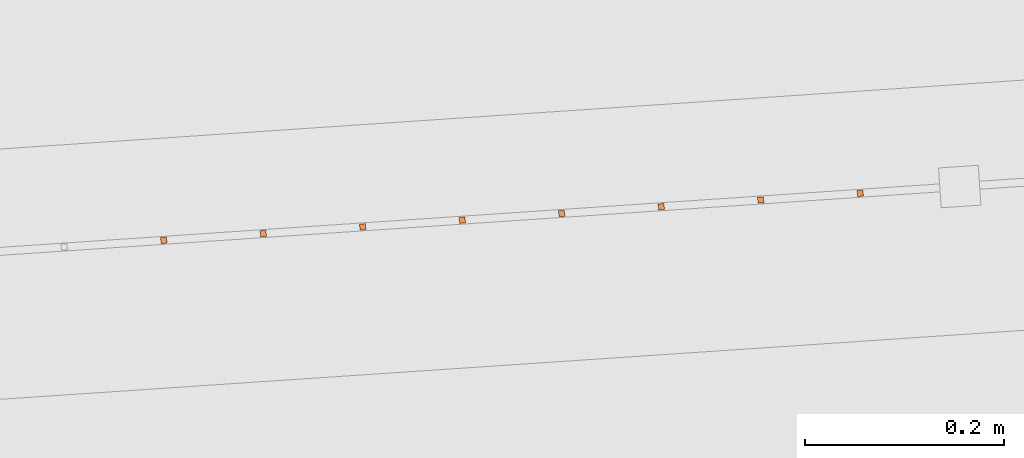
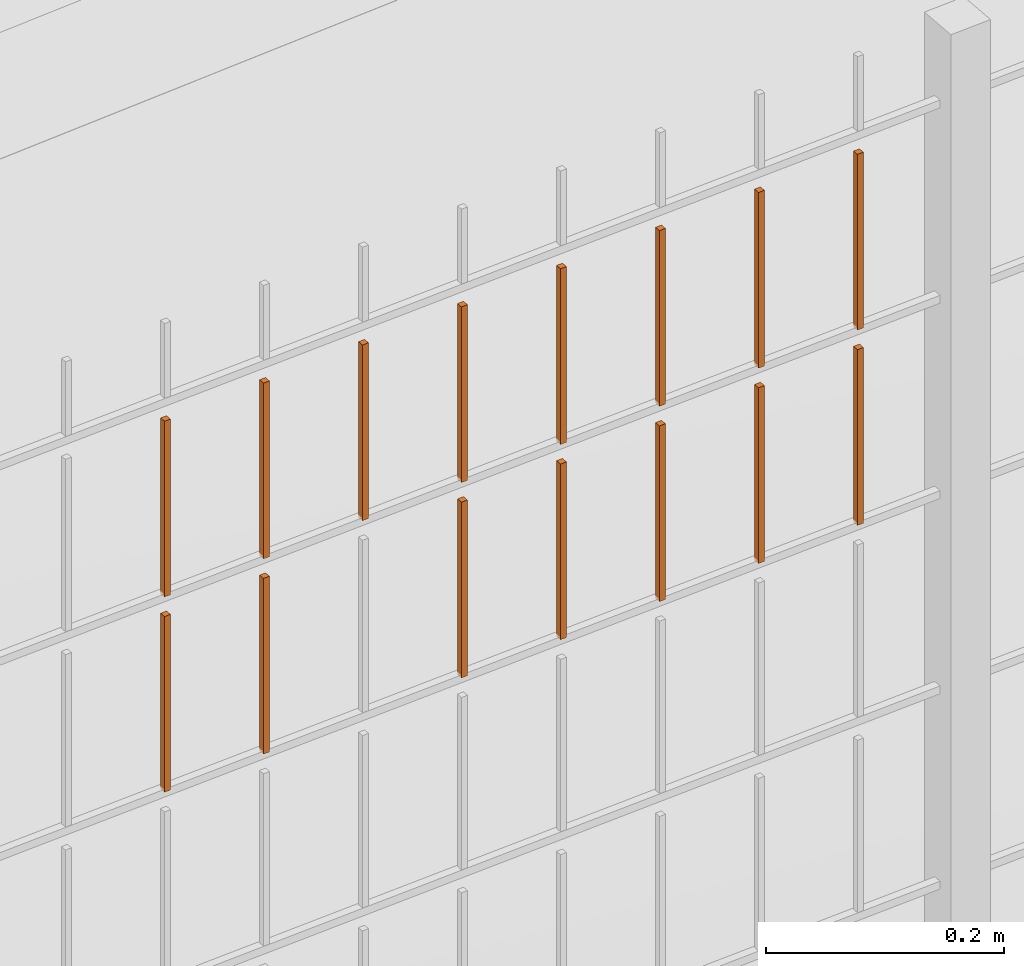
# One storey, part 394 of 1809: 15 proxies, 1 element without a shape of its own.
"""IFC2X3 building model written with IfcOpenShell, lengths in millimetres."""

from ifc_helpers import new_model, entity, si_unit, converted_unit, derived_unit, money_unit, direction, frame, origin_with_axes, place, context, subcontext, project, spatial, faceted_brep, source, transform, mapped, material, type_object, element, aggregate, save


model = new_model("IFC2X3")

# Units and contexts
model_context = context("Model", 3, precision=0.01, world=origin_with_axes(), true_north=direction((0.0, 1.0)))
body_context = subcontext(model_context, "Body", "Model", "MODEL_VIEW")
ifc_project = project(units=[si_unit("LENGTHUNIT", "METRE", prefix="MILLI"), si_unit("AREAUNIT", "SQUARE_METRE"), si_unit("VOLUMEUNIT", "CUBIC_METRE"), converted_unit("PLANEANGLEUNIT", "DEGREE", entity("IfcPlaneAngleMeasure", 0.0174532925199), si_unit("PLANEANGLEUNIT", "RADIAN"), dimensions=[0, 0, 0, 0, 0, 0, 0]), si_unit("SOLIDANGLEUNIT", "STERADIAN"), money_unit("EUR"), converted_unit("TIMEUNIT", "Year", entity("IfcTimeMeasure", 31556926.0), si_unit("TIMEUNIT", "SECOND"), dimensions=[0, 0, 1, 0, 0, 0, 0]), si_unit("MASSUNIT", "GRAM", prefix="KILO"), si_unit("THERMODYNAMICTEMPERATUREUNIT", "DEGREE_CELSIUS"), si_unit("LUMINOUSINTENSITYUNIT", "LUMEN"), si_unit("ENERGYUNIT", "JOULE", prefix="MEGA"), derived_unit("THERMALCONDUCTANCEUNIT", [(si_unit("POWERUNIT", "WATT"), 1), (si_unit("LENGTHUNIT", "METRE"), -1), (si_unit("THERMODYNAMICTEMPERATUREUNIT", "KELVIN"), -1)]), derived_unit("SPECIFICHEATCAPACITYUNIT", [(si_unit("ENERGYUNIT", "JOULE"), 1), (si_unit("MASSUNIT", "GRAM", prefix="KILO"), -1), (si_unit("THERMODYNAMICTEMPERATUREUNIT", "KELVIN"), -1)]), derived_unit("MASSDENSITYUNIT", [(si_unit("MASSUNIT", "GRAM", prefix="KILO"), 1), (si_unit("VOLUMEUNIT", "CUBIC_METRE"), -1)])], contexts=[model_context])

# Site, building, storey
site_placement = place(None, origin_with_axes())
site = spatial("IfcSite", under=ifc_project, at=site_placement, Name="Politse- ja Piirivalveameti ning Päästeameti ühishoone", CompositionType="ELEMENT")
building_placement = place(site_placement, origin_with_axes())
building = spatial("IfcBuilding", under=site, at=building_placement, Name="Politse- ja Piirivalveameti ning Päästeameti ühishoone", CompositionType="ELEMENT")
storey_placement = place(building_placement, origin_with_axes())
storey = spatial("IfcBuildingStorey", under=building, at=storey_placement, Name="Esimene korrus", CompositionType="ELEMENT", Elevation=0.0)

# Proxies
building_element_proxy_type_1 = type_object("IfcBuildingElementProxyType", Name="Railing Type", PredefinedType="NOTDEFINED")
proxy_1_placement = place(storey_placement, frame((89252.001212, -29183.4766571, 203.661247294), z_axis=(0.0, 0.0, 1.0), x_axis=(1.0, 0.0, 0.0)))
proxy_1 = element("IfcBuildingElementProxy", 1, at=proxy_1_placement, inside=storey, type_object=building_element_proxy_type_1, Name="PIIRDEAED")
ifc_material = material(Name="ET-03_Raud")
building_element_proxy_type_2 = type_object("IfcBuildingElementProxyType", Name="IfcBuildingElementProxy", PredefinedType="NOTDEFINED")
shared_shape_1 = source(origin_with_axes(), body_context, "Body", "Brep", [
    faceted_brep([(3.0, 3.0, -0.000752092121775), (-3.0, 3.0, -0.000752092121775), (-3.0, 3.0, 179.99926046), (3.0, 3.0, 179.99926046), (3.0, -3.0, 0.000752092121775), (-3.0, -3.0, 0.000752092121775), (-3.0, -3.0, 180.000764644), (3.0, -3.0, 180.000764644)], [[[0, 1, 2, 3]], [[0, 4, 5, 1]], [[1, 5, 6, 2]], [[3, 2, 6, 7]], [[4, 0, 3, 7]], [[5, 4, 7, 6]]]),
])
proxy_2_placement = place(proxy_1_placement, frame((-12597.9815761, -18148.720874, 1824.068908), z_axis=(0.0, 0.0, 1.0), x_axis=(1.0, 0.0, 0.0)))
proxy_2 = element("IfcBuildingElementProxy", 2, at=proxy_2_placement, type_object=building_element_proxy_type_2, material=ifc_material, Name="BALUSTER - 001", context=body_context, shape_type="MappedRepresentation", body=[
    mapped(shared_shape_1, transform((0.0, 0.0, 0.0), x_axis=(-0.0673926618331, 0.997726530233, 0.0), y_axis=(-0.997726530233, -0.0673926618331, 0.0), z_axis=(0.0, 0.0, 1.0))),
])
shared_shape_2 = source(origin_with_axes(), body_context, "Body", "Brep", [
    faceted_brep([(3.0, 3.0, -0.000752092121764), (-3.0, 3.0, -0.000752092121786), (-3.0, 3.0, 179.99926046), (3.0, 3.0, 179.99926046), (3.0, -3.0, 0.000752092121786), (-3.0, -3.0, 0.000752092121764), (-3.0, -3.0, 180.000764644), (3.0, -3.0, 180.000764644)], [[[0, 1, 2, 3]], [[0, 4, 5, 1]], [[1, 5, 6, 2]], [[3, 2, 6, 7]], [[4, 0, 3, 7]], [[5, 4, 7, 6]]]),
])
proxy_3_placement = place(proxy_1_placement, frame((-12498.2089231, -18141.9816078, 1624.09397773), z_axis=(0.0, 0.0, 1.0), x_axis=(1.0, 0.0, 0.0)))
proxy_3 = element("IfcBuildingElementProxy", 3, at=proxy_3_placement, type_object=building_element_proxy_type_2, material=ifc_material, Name="BALUSTER - 001", context=body_context, shape_type="MappedRepresentation", body=[
    mapped(shared_shape_2, transform((0.0, 0.0, 0.0), x_axis=(-0.0673926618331, 0.997726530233, 0.0), y_axis=(-0.997726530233, -0.0673926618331, 0.0), z_axis=(0.0, 0.0, 1.0))),
])
shared_shape_3 = source(origin_with_axes(), body_context, "Body", "Brep", [
    faceted_brep([(3.0, 3.0, -0.000752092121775), (-3.0, 3.0, -0.000752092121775), (-3.0, 3.0, 179.99926046), (3.0, 3.0, 179.99926046), (3.0, -3.0, 0.000752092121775), (-3.0, -3.0, 0.000752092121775), (-3.0, -3.0, 180.000764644), (3.0, -3.0, 180.000764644)], [[[0, 1, 2, 3]], [[0, 4, 5, 1]], [[1, 5, 6, 2]], [[3, 2, 6, 7]], [[4, 0, 3, 7]], [[5, 4, 7, 6]]]),
])
proxy_4_placement = place(proxy_1_placement, frame((-12997.0721882, -18175.6779387, 1823.96862905), z_axis=(0.0, 0.0, 1.0), x_axis=(1.0, 0.0, 0.0)))
proxy_4 = element("IfcBuildingElementProxy", 4, at=proxy_4_placement, type_object=building_element_proxy_type_2, material=ifc_material, Name="BALUSTER - 001", context=body_context, shape_type="MappedRepresentation", body=[
    mapped(shared_shape_3, transform((0.0, 0.0, 0.0), x_axis=(-0.0673926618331, 0.997726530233, 0.0), y_axis=(-0.997726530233, -0.0673926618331, 0.0), z_axis=(0.0, 0.0, 1.0))),
])
shared_shape_4 = source(origin_with_axes(), body_context, "Body", "Brep", [
    faceted_brep([(3.0, 3.0, -0.000752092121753), (-3.0, 3.0, -0.000752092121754), (-3.0, 3.0, 179.99926046), (3.0, 3.0, 179.99926046), (3.0, -3.0, 0.000752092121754), (-3.0, -3.0, 0.000752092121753), (-3.0, -3.0, 180.000764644), (3.0, -3.0, 180.000764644)], [[[0, 1, 2, 3]], [[0, 4, 5, 1]], [[1, 5, 6, 2]], [[3, 2, 6, 7]], [[4, 0, 3, 7]], [[5, 4, 7, 6]]]),
])
proxy_5_placement = place(proxy_1_placement, frame((-13096.8448412, -18182.4172049, 1823.94355931), z_axis=(0.0, 0.0, 1.0), x_axis=(1.0, 0.0, 0.0)))
proxy_5 = element("IfcBuildingElementProxy", 5, at=proxy_5_placement, type_object=building_element_proxy_type_2, material=ifc_material, Name="BALUSTER - 001", context=body_context, shape_type="MappedRepresentation", body=[
    mapped(shared_shape_4, transform((0.0, 0.0, 0.0), x_axis=(-0.0673926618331, 0.997726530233, 0.0), y_axis=(-0.997726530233, -0.0673926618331, 0.0), z_axis=(0.0, 0.0, 1.0))),
])
shared_shape_5 = source(origin_with_axes(), body_context, "Body", "Brep", [
    faceted_brep([(3.0, 3.0, -0.000752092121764), (-3.0, 3.0, -0.000752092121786), (-3.0, 3.0, 179.99926046), (3.0, 3.0, 179.99926046), (3.0, -3.0, 0.000752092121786), (-3.0, -3.0, 0.000752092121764), (-3.0, -3.0, 180.000764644), (3.0, -3.0, 180.000764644)], [[[0, 1, 2, 3]], [[0, 4, 5, 1]], [[1, 5, 6, 2]], [[3, 2, 6, 7]], [[4, 0, 3, 7]], [[5, 4, 7, 6]]]),
])
proxy_6_placement = place(proxy_1_placement, frame((-12697.7542291, -18155.4601402, 1824.04383826), z_axis=(0.0, 0.0, 1.0), x_axis=(1.0, 0.0, 0.0)))
proxy_6 = element("IfcBuildingElementProxy", 6, at=proxy_6_placement, type_object=building_element_proxy_type_2, material=ifc_material, Name="BALUSTER - 001", context=body_context, shape_type="MappedRepresentation", body=[
    mapped(shared_shape_5, transform((0.0, 0.0, 0.0), x_axis=(-0.0673926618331, 0.997726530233, 0.0), y_axis=(-0.997726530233, -0.0673926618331, 0.0), z_axis=(0.0, 0.0, 1.0))),
])
shared_shape_6 = source(origin_with_axes(), body_context, "Body", "Brep", [
    faceted_brep([(3.0, 3.0, -0.000752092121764), (-3.0, 3.0, -0.000752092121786), (-3.0, 3.0, 179.99926046), (3.0, 3.0, 179.99926046), (3.0, -3.0, 0.000752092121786), (-3.0, -3.0, 0.000752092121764), (-3.0, -3.0, 180.000764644), (3.0, -3.0, 180.000764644)], [[[0, 1, 2, 3]], [[0, 4, 5, 1]], [[1, 5, 6, 2]], [[3, 2, 6, 7]], [[4, 0, 3, 7]], [[5, 4, 7, 6]]]),
])
proxy_7_placement = place(proxy_1_placement, frame((-12797.5268822, -18162.1994064, 1624.01876852), z_axis=(0.0, 0.0, 1.0), x_axis=(1.0, 0.0, 0.0)))
proxy_7 = element("IfcBuildingElementProxy", 7, at=proxy_7_placement, type_object=building_element_proxy_type_2, material=ifc_material, Name="BALUSTER - 001", context=body_context, shape_type="MappedRepresentation", body=[
    mapped(shared_shape_6, transform((0.0, 0.0, 0.0), x_axis=(-0.0673926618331, 0.997726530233, 0.0), y_axis=(-0.997726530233, -0.0673926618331, 0.0), z_axis=(0.0, 0.0, 1.0))),
])
shared_shape_7 = source(origin_with_axes(), body_context, "Body", "Brep", [
    faceted_brep([(3.0, 3.0, -0.000752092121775), (-3.0, 3.0, -0.000752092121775), (-3.0, 3.0, 179.99926046), (3.0, 3.0, 179.99926046), (3.0, -3.0, 0.000752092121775), (-3.0, -3.0, 0.000752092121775), (-3.0, -3.0, 180.000764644), (3.0, -3.0, 180.000764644)], [[[0, 1, 2, 3]], [[0, 4, 5, 1]], [[1, 5, 6, 2]], [[3, 2, 6, 7]], [[4, 0, 3, 7]], [[5, 4, 7, 6]]]),
])
proxy_8_placement = place(proxy_1_placement, frame((-12398.4362701, -18135.2423416, 1824.11904747), z_axis=(0.0, 0.0, 1.0), x_axis=(1.0, 0.0, 0.0)))
proxy_8 = element("IfcBuildingElementProxy", 8, at=proxy_8_placement, type_object=building_element_proxy_type_2, material=ifc_material, Name="BALUSTER - 001", context=body_context, shape_type="MappedRepresentation", body=[
    mapped(shared_shape_7, transform((0.0, 0.0, 0.0), x_axis=(-0.0673926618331, 0.997726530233, 0.0), y_axis=(-0.997726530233, -0.0673926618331, 0.0), z_axis=(0.0, 0.0, 1.0))),
])
shared_shape_8 = source(origin_with_axes(), body_context, "Body", "Brep", [
    faceted_brep([(3.0, 3.0, -0.000752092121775), (-3.0, 3.0, -0.000752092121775), (-3.0, 3.0, 179.99926046), (3.0, 3.0, 179.99926046), (3.0, -3.0, 0.000752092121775), (-3.0, -3.0, 0.000752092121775), (-3.0, -3.0, 180.000764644), (3.0, -3.0, 180.000764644)], [[[0, 1, 2, 3]], [[0, 4, 5, 1]], [[1, 5, 6, 2]], [[3, 2, 6, 7]], [[4, 0, 3, 7]], [[5, 4, 7, 6]]]),
])
proxy_9_placement = place(proxy_1_placement, frame((-12997.0721882, -18175.6779387, 1623.96862905), z_axis=(0.0, 0.0, 1.0), x_axis=(1.0, 0.0, 0.0)))
proxy_9 = element("IfcBuildingElementProxy", 9, at=proxy_9_placement, type_object=building_element_proxy_type_2, material=ifc_material, Name="BALUSTER - 001", context=body_context, shape_type="MappedRepresentation", body=[
    mapped(shared_shape_8, transform((0.0, 0.0, 0.0), x_axis=(-0.0673926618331, 0.997726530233, 0.0), y_axis=(-0.997726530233, -0.0673926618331, 0.0), z_axis=(0.0, 0.0, 1.0))),
])
shared_shape_9 = source(origin_with_axes(), body_context, "Body", "Brep", [
    faceted_brep([(3.0, 3.0, -0.000752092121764), (-3.0, 3.0, -0.000752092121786), (-3.0, 3.0, 179.99926046), (3.0, 3.0, 179.99926046), (3.0, -3.0, 0.000752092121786), (-3.0, -3.0, 0.000752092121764), (-3.0, -3.0, 180.000764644), (3.0, -3.0, 180.000764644)], [[[0, 1, 2, 3]], [[0, 4, 5, 1]], [[1, 5, 6, 2]], [[3, 2, 6, 7]], [[4, 0, 3, 7]], [[5, 4, 7, 6]]]),
])
proxy_10_placement = place(proxy_1_placement, frame((-12697.7542291, -18155.4601402, 1624.04383826), z_axis=(0.0, 0.0, 1.0), x_axis=(1.0, 0.0, 0.0)))
proxy_10 = element("IfcBuildingElementProxy", 10, at=proxy_10_placement, type_object=building_element_proxy_type_2, material=ifc_material, Name="BALUSTER - 001", context=body_context, shape_type="MappedRepresentation", body=[
    mapped(shared_shape_9, transform((0.0, 0.0, 0.0), x_axis=(-0.0673926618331, 0.997726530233, 0.0), y_axis=(-0.997726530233, -0.0673926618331, 0.0), z_axis=(0.0, 0.0, 1.0))),
])
shared_shape_10 = source(origin_with_axes(), body_context, "Body", "Brep", [
    faceted_brep([(3.0, 3.0, -0.000752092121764), (-3.0, 3.0, -0.000752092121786), (-3.0, 3.0, 179.99926046), (3.0, 3.0, 179.99926046), (3.0, -3.0, 0.000752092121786), (-3.0, -3.0, 0.000752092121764), (-3.0, -3.0, 180.000764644), (3.0, -3.0, 180.000764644)], [[[0, 1, 2, 3]], [[0, 4, 5, 1]], [[1, 5, 6, 2]], [[3, 2, 6, 7]], [[4, 0, 3, 7]], [[5, 4, 7, 6]]]),
])
proxy_11_placement = place(proxy_1_placement, frame((-12797.5268822, -18162.1994064, 1824.01876852), z_axis=(0.0, 0.0, 1.0), x_axis=(1.0, 0.0, 0.0)))
proxy_11 = element("IfcBuildingElementProxy", 11, at=proxy_11_placement, type_object=building_element_proxy_type_2, material=ifc_material, Name="BALUSTER - 001", context=body_context, shape_type="MappedRepresentation", body=[
    mapped(shared_shape_10, transform((0.0, 0.0, 0.0), x_axis=(-0.0673926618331, 0.997726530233, 0.0), y_axis=(-0.997726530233, -0.0673926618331, 0.0), z_axis=(0.0, 0.0, 1.0))),
])
shared_shape_11 = source(origin_with_axes(), body_context, "Body", "Brep", [
    faceted_brep([(3.0, 3.0, -0.000752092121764), (-3.0, 3.0, -0.000752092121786), (-3.0, 3.0, 179.99926046), (3.0, 3.0, 179.99926046), (3.0, -3.0, 0.000752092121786), (-3.0, -3.0, 0.000752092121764), (-3.0, -3.0, 180.000764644), (3.0, -3.0, 180.000764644)], [[[0, 1, 2, 3]], [[0, 4, 5, 1]], [[1, 5, 6, 2]], [[3, 2, 6, 7]], [[4, 0, 3, 7]], [[5, 4, 7, 6]]]),
])
proxy_12_placement = place(proxy_1_placement, frame((-12498.2089231, -18141.9816078, 1824.09397773), z_axis=(0.0, 0.0, 1.0), x_axis=(1.0, 0.0, 0.0)))
proxy_12 = element("IfcBuildingElementProxy", 12, at=proxy_12_placement, type_object=building_element_proxy_type_2, material=ifc_material, Name="BALUSTER - 001", context=body_context, shape_type="MappedRepresentation", body=[
    mapped(shared_shape_11, transform((0.0, 0.0, 0.0), x_axis=(-0.0673926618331, 0.997726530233, 0.0), y_axis=(-0.997726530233, -0.0673926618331, 0.0), z_axis=(0.0, 0.0, 1.0))),
])
shared_shape_12 = source(origin_with_axes(), body_context, "Body", "Brep", [
    faceted_brep([(3.0, 3.0, -0.000752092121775), (-3.0, 3.0, -0.000752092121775), (-3.0, 3.0, 179.99926046), (3.0, 3.0, 179.99926046), (3.0, -3.0, 0.000752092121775), (-3.0, -3.0, 0.000752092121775), (-3.0, -3.0, 180.000764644), (3.0, -3.0, 180.000764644)], [[[0, 1, 2, 3]], [[0, 4, 5, 1]], [[1, 5, 6, 2]], [[3, 2, 6, 7]], [[4, 0, 3, 7]], [[5, 4, 7, 6]]]),
])
proxy_13_placement = place(proxy_1_placement, frame((-12398.4362701, -18135.2423416, 1624.11904747), z_axis=(0.0, 0.0, 1.0), x_axis=(1.0, 0.0, 0.0)))
proxy_13 = element("IfcBuildingElementProxy", 13, at=proxy_13_placement, type_object=building_element_proxy_type_2, material=ifc_material, Name="BALUSTER - 001", context=body_context, shape_type="MappedRepresentation", body=[
    mapped(shared_shape_12, transform((0.0, 0.0, 0.0), x_axis=(-0.0673926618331, 0.997726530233, 0.0), y_axis=(-0.997726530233, -0.0673926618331, 0.0), z_axis=(0.0, 0.0, 1.0))),
])
shared_shape_13 = source(origin_with_axes(), body_context, "Body", "Brep", [
    faceted_brep([(3.0, 3.0, -0.000752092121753), (-3.0, 3.0, -0.000752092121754), (-3.0, 3.0, 179.99926046), (3.0, 3.0, 179.99926046), (3.0, -3.0, 0.000752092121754), (-3.0, -3.0, 0.000752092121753), (-3.0, -3.0, 180.000764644), (3.0, -3.0, 180.000764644)], [[[0, 1, 2, 3]], [[0, 4, 5, 1]], [[1, 5, 6, 2]], [[3, 2, 6, 7]], [[4, 0, 3, 7]], [[5, 4, 7, 6]]]),
])
proxy_14_placement = place(proxy_1_placement, frame((-13096.8448412, -18182.4172049, 1623.94355931), z_axis=(0.0, 0.0, 1.0), x_axis=(1.0, 0.0, 0.0)))
proxy_14 = element("IfcBuildingElementProxy", 14, at=proxy_14_placement, type_object=building_element_proxy_type_2, material=ifc_material, Name="BALUSTER - 001", context=body_context, shape_type="MappedRepresentation", body=[
    mapped(shared_shape_13, transform((0.0, 0.0, 0.0), x_axis=(-0.0673926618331, 0.997726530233, 0.0), y_axis=(-0.997726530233, -0.0673926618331, 0.0), z_axis=(0.0, 0.0, 1.0))),
])
shared_shape_14 = source(origin_with_axes(), body_context, "Body", "Brep", [
    faceted_brep([(3.0, 3.0, -0.000752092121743), (-3.0, 3.0, -0.000752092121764), (-3.0, 3.0, 179.99926046), (3.0, 3.0, 179.99926046), (3.0, -3.0, 0.000752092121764), (-3.0, -3.0, 0.000752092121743), (-3.0, -3.0, 180.000764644), (3.0, -3.0, 180.000764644)], [[[0, 1, 2, 3]], [[0, 4, 5, 1]], [[1, 5, 6, 2]], [[3, 2, 6, 7]], [[4, 0, 3, 7]], [[5, 4, 7, 6]]]),
])
proxy_15_placement = place(proxy_1_placement, frame((-12897.2995352, -18168.9386726, 1823.99369878), z_axis=(0.0, 0.0, 1.0), x_axis=(1.0, 0.0, 0.0)))
proxy_15 = element("IfcBuildingElementProxy", 15, at=proxy_15_placement, type_object=building_element_proxy_type_2, material=ifc_material, Name="BALUSTER - 001", context=body_context, shape_type="MappedRepresentation", body=[
    mapped(shared_shape_14, transform((0.0, 0.0, 0.0), x_axis=(-0.0673926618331, 0.997726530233, 0.0), y_axis=(-0.997726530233, -0.0673926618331, 0.0), z_axis=(0.0, 0.0, 1.0))),
])
shared_shape_15 = source(origin_with_axes(), body_context, "Body", "Brep", [
    faceted_brep([(3.0, 3.0, -0.000752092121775), (-3.0, 3.0, -0.000752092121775), (-3.0, 3.0, 179.99926046), (3.0, 3.0, 179.99926046), (3.0, -3.0, 0.000752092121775), (-3.0, -3.0, 0.000752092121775), (-3.0, -3.0, 180.000764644), (3.0, -3.0, 180.000764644)], [[[0, 1, 2, 3]], [[0, 4, 5, 1]], [[1, 5, 6, 2]], [[3, 2, 6, 7]], [[4, 0, 3, 7]], [[5, 4, 7, 6]]]),
])
proxy_16_placement = place(proxy_1_placement, frame((-12597.9815761, -18148.720874, 1624.068908), z_axis=(0.0, 0.0, 1.0), x_axis=(1.0, 0.0, 0.0)))
proxy_16 = element("IfcBuildingElementProxy", 16, at=proxy_16_placement, type_object=building_element_proxy_type_2, material=ifc_material, Name="BALUSTER - 001", context=body_context, shape_type="MappedRepresentation", body=[
    mapped(shared_shape_15, transform((0.0, 0.0, 0.0), x_axis=(-0.0673926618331, 0.997726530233, 0.0), y_axis=(-0.997726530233, -0.0673926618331, 0.0), z_axis=(0.0, 0.0, 1.0))),
])
aggregate(proxy_1, [proxy_13, proxy_3, proxy_16, proxy_10, proxy_7, proxy_9, proxy_14, proxy_8, proxy_12, proxy_2, proxy_6, proxy_11, proxy_15, proxy_4, proxy_5])

save(model, "model.ifc")
